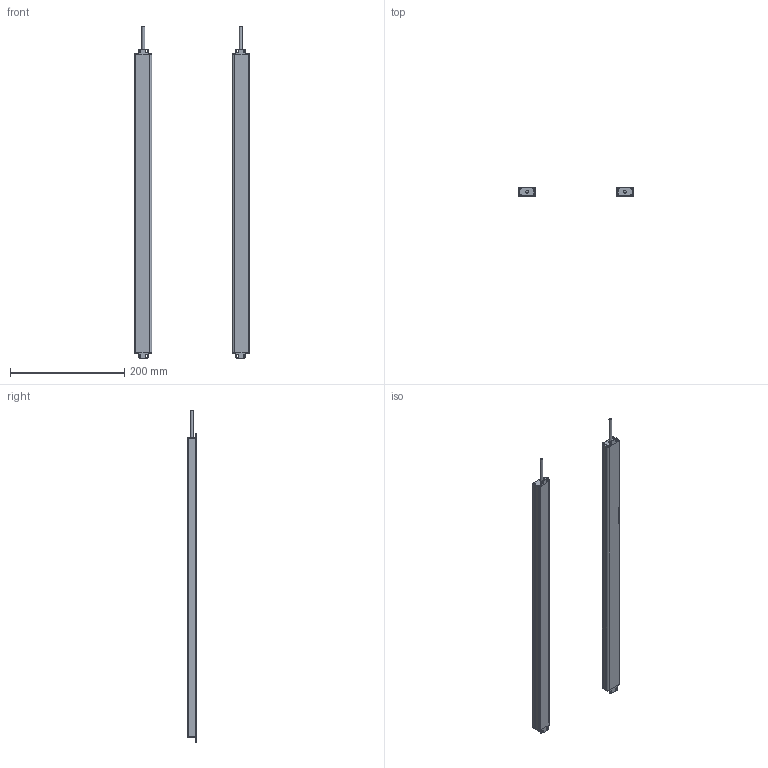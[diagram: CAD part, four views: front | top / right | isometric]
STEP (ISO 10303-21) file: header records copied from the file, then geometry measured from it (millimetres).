
FILE_DESCRIPTION(/* description */ (''),/* implementation_level */ '2;1');
FILE_NAME(/* name */ '5210（16X30w).stp',/* time_stamp */ '2023-10-23T10:31:47+08:00',/* author */ (''),/* organization */ (''),/* preprocessor_version */ 'ST-DEVELOPER v16.7',/* originating_system */ 'SIEMENS PLM Software NX 12.0',/* authorisation */ '');
FILE_SCHEMA (('AP203_CONFIGURATION_CONTROLLED_3D_DESIGN_OF_MECHANICAL_PARTS_AND_ASSEMBLIES_MIM_LF { 1 0 10303 403 2 1 2}'));
Length unit declared in the file: millimetre
Products named in the file (1): 5010（16X30w__stp
Bounding box: 200 x 16 x 581.5 mm (x, y, z)
Volume: 151474.5 mm3; surface area: 223944 mm2
Topology: 10 solids, 10 shells, 296 faces, 830 edges, 554 vertices
Faces by surface type: plane 160, cylinder 136
Full cylindrical faces by diameter (mm): 5 x2
Entity records: 9825 total; most frequent: DIRECTION 1692, CARTESIAN_POINT 1675, ORIENTED_EDGE 1652, EDGE_CURVE 826, AXIS2_PLACEMENT_3D 569, LINE 554, VECTOR 554, VERTEX_POINT 552
